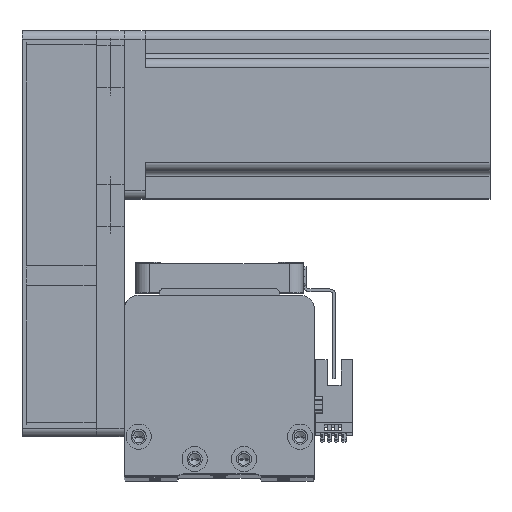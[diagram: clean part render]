
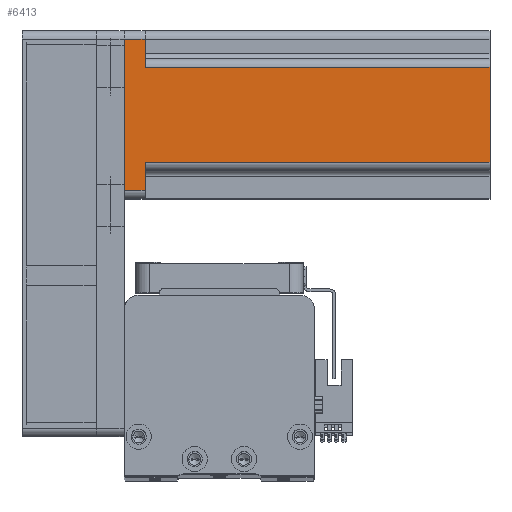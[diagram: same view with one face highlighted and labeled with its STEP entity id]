
A CAD part, top view. The second image highlights one B-rep face of the part: STEP entity #6413.
In plain terms, the highlighted planar face has unit normal (0, 0, 1) as drawn and (0, 1, 0) by its records, which use the part's own axes.
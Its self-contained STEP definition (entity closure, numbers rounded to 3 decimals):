
#1011 = VERTEX_POINT ( 'NONE', #34454 ) ;
#1653 = EDGE_CURVE ( 'NONE', #1011, #39770, #13609, .T. ) ;
#1893 = AXIS2_PLACEMENT_3D ( 'NONE', #38431, #16699, #42103 ) ;
#1899 = LINE ( 'NONE', #33910, #11492 ) ;
#3719 = ORIENTED_EDGE ( 'NONE', *, *, #31468, .F. ) ;
#4117 = VECTOR ( 'NONE', #40522, 1000. ) ;
#4485 = DIRECTION ( 'NONE',  ( 0., 0., 1. ) ) ;
#5598 = VERTEX_POINT ( 'NONE', #32917 ) ;
#6306 = VERTEX_POINT ( 'NONE', #37476 ) ;
#6413 = ADVANCED_FACE ( 'NONE', ( #14980 ), #41947, .F. ) ;
#6483 = LINE ( 'NONE', #16075, #24610 ) ;
#6912 = VERTEX_POINT ( 'NONE', #22824 ) ;
#8572 = DIRECTION ( 'NONE',  ( -1., 0., 0. ) ) ;
#9299 = LINE ( 'NONE', #19932, #35948 ) ;
#9622 = DIRECTION ( 'NONE',  ( 0., 0., -1. ) ) ;
#11175 = LINE ( 'NONE', #29847, #36711 ) ;
#11460 = CARTESIAN_POINT ( 'NONE',  ( 20., 30., 7.5 ) ) ;
#11492 = VECTOR ( 'NONE', #8572, 1000. ) ;
#11918 = VECTOR ( 'NONE', #9622, 1000. ) ;
#13609 = LINE ( 'NONE', #27654, #22125 ) ;
#13754 = LINE ( 'NONE', #11460, #4117 ) ;
#14980 = FACE_OUTER_BOUND ( 'NONE', #17883, .T. ) ;
#15736 = VERTEX_POINT ( 'NONE', #18487 ) ;
#16075 = CARTESIAN_POINT ( 'NONE',  ( -20., 30., 7.5 ) ) ;
#16699 = DIRECTION ( 'NONE',  ( 0., -1., 0. ) ) ;
#17219 = ORIENTED_EDGE ( 'NONE', *, *, #19533, .T. ) ;
#17883 = EDGE_LOOP ( 'NONE', ( #37584, #17219, #3719, #21855, #32576, #29010, #23548, #43662 ) ) ;
#18487 = CARTESIAN_POINT ( 'NONE',  ( -17., 30., 7.5 ) ) ;
#19533 = EDGE_CURVE ( 'NONE', #15736, #6306, #9299, .T. ) ;
#19763 = DIRECTION ( 'NONE',  ( 1., 0., 0. ) ) ;
#19932 = CARTESIAN_POINT ( 'NONE',  ( -17., 30., 130.7 ) ) ;
#20613 = CARTESIAN_POINT ( 'NONE',  ( 27., 30., 130.7 ) ) ;
#21808 = EDGE_CURVE ( 'NONE', #30120, #5598, #11175, .T. ) ;
#21855 = ORIENTED_EDGE ( 'NONE', *, *, #1653, .T. ) ;
#22125 = VECTOR ( 'NONE', #31271, 1000. ) ;
#22824 = CARTESIAN_POINT ( 'NONE',  ( 27., 30., 7.5 ) ) ;
#23531 = DIRECTION ( 'NONE',  ( 0., 0., 1. ) ) ;
#23548 = ORIENTED_EDGE ( 'NONE', *, *, #41464, .T. ) ;
#24610 = VECTOR ( 'NONE', #19763, 1000. ) ;
#26835 = DIRECTION ( 'NONE',  ( -1., 0., 0. ) ) ;
#27654 = CARTESIAN_POINT ( 'NONE',  ( 17., 30., 130.7 ) ) ;
#28489 = VERTEX_POINT ( 'NONE', #32358 ) ;
#29010 = ORIENTED_EDGE ( 'NONE', *, *, #32344, .T. ) ;
#29847 = CARTESIAN_POINT ( 'NONE',  ( -27., 30., 130.7 ) ) ;
#30120 = VERTEX_POINT ( 'NONE', #44879 ) ;
#31271 = DIRECTION ( 'NONE',  ( 0., 0., -1. ) ) ;
#31468 = EDGE_CURVE ( 'NONE', #1011, #6306, #39837, .T. ) ;
#32344 = EDGE_CURVE ( 'NONE', #6912, #28489, #32363, .T. ) ;
#32358 = CARTESIAN_POINT ( 'NONE',  ( 27., 30., 0. ) ) ;
#32363 = LINE ( 'NONE', #20613, #11918 ) ;
#32576 = ORIENTED_EDGE ( 'NONE', *, *, #43831, .F. ) ;
#32917 = CARTESIAN_POINT ( 'NONE',  ( -27., 30., 7.5 ) ) ;
#33910 = CARTESIAN_POINT ( 'NONE',  ( 30., 30., 0. ) ) ;
#34454 = CARTESIAN_POINT ( 'NONE',  ( 17., 30., 130.7 ) ) ;
#35948 = VECTOR ( 'NONE', #23531, 1000. ) ;
#36711 = VECTOR ( 'NONE', #4485, 1000. ) ;
#37331 = EDGE_CURVE ( 'NONE', #5598, #15736, #6483, .T. ) ;
#37476 = CARTESIAN_POINT ( 'NONE',  ( -17., 30., 130.7 ) ) ;
#37584 = ORIENTED_EDGE ( 'NONE', *, *, #37331, .T. ) ;
#38431 = CARTESIAN_POINT ( 'NONE',  ( 30., 30., 130.7 ) ) ;
#38708 = VECTOR ( 'NONE', #26835, 1000. ) ;
#39770 = VERTEX_POINT ( 'NONE', #44578 ) ;
#39837 = LINE ( 'NONE', #41262, #38708 ) ;
#40522 = DIRECTION ( 'NONE',  ( -1., 0., 0. ) ) ;
#41262 = CARTESIAN_POINT ( 'NONE',  ( 30., 30., 130.7 ) ) ;
#41464 = EDGE_CURVE ( 'NONE', #28489, #30120, #1899, .T. ) ;
#41947 = PLANE ( 'NONE',  #1893 ) ;
#42103 = DIRECTION ( 'NONE',  ( 1., 0., 0. ) ) ;
#43662 = ORIENTED_EDGE ( 'NONE', *, *, #21808, .T. ) ;
#43831 = EDGE_CURVE ( 'NONE', #6912, #39770, #13754, .T. ) ;
#44578 = CARTESIAN_POINT ( 'NONE',  ( 17., 30., 7.5 ) ) ;
#44879 = CARTESIAN_POINT ( 'NONE',  ( -27., 30., 0. ) ) ;
